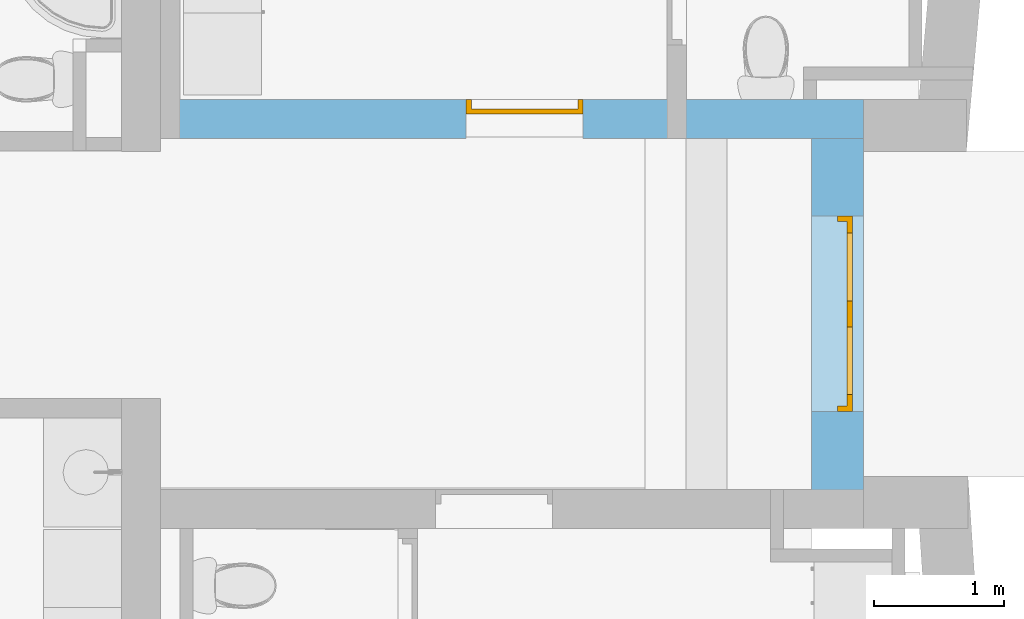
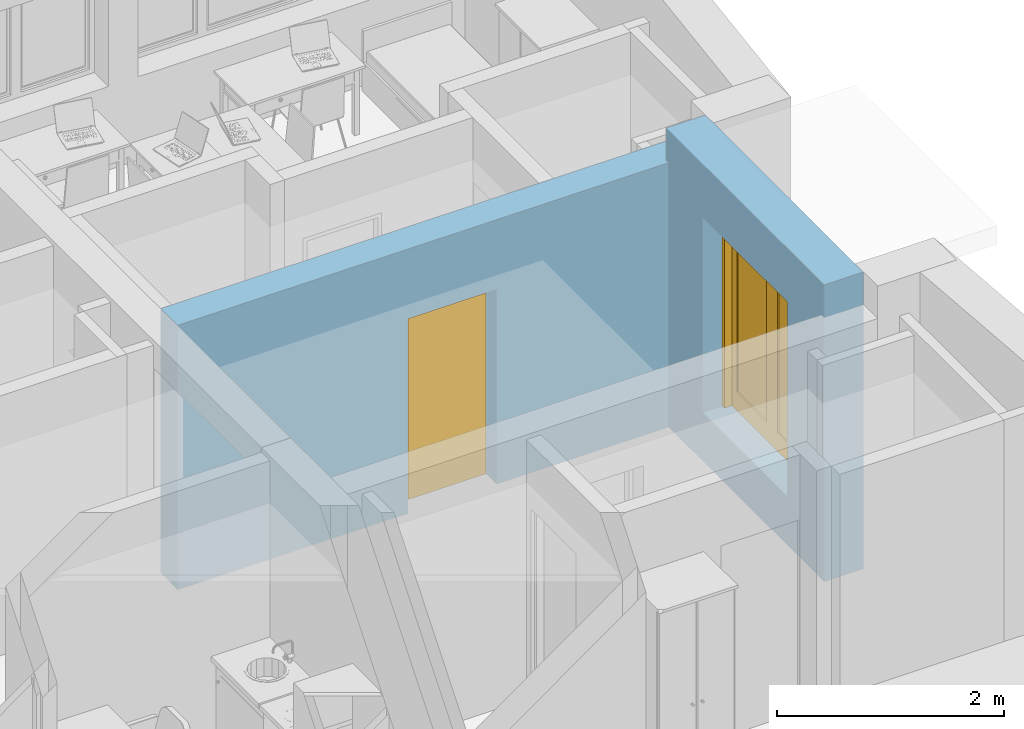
# One storey, part 25 of 165: 2 doors, 2 openings, plus 2 elements that do not belong to this part.
"""IFC2X3 building model written with IfcOpenShell, lengths in millimetres."""

import ifcopenshell
import ifcopenshell.guid

model = None  # the IFC model being written
_history = None  # IfcOwnerHistory: only IFC2X3 demands one
_inside = {}  # id of a spatial element -> (the spatial element, [elements in it])
_under = {}  # id of a project, library or spatial element -> (it, [spatial elements below it])
_declared = {}  # id of a project -> (the project, [libraries it declares])
_typed = {}  # id of a type object -> (the type object, [elements of that type])
_made_of = {}  # id of a material, layer set ... -> (it, [elements and type objects made of it])


def new_model(schema):
    """Start an empty IFC model of exactly this schema.

    Asked for "IFC4X3", IfcOpenShell would pick the latest addendum, in which some entities
    have other attributes; the version numbers below select the first issue.
    IFC2X3 requires an IfcOwnerHistory on every rooted entity: one is made here for all.
    """
    global model, _history
    if schema == "IFC4X3":
        model = ifcopenshell.file(schema_version=(4, 3, 0, 0))
    else:
        model = ifcopenshell.file(schema=schema)
    _inside.clear()
    _under.clear()
    _declared.clear()
    _typed.clear()
    _made_of.clear()
    _history = None
    if model.schema == "IFC2X3":
        org = make("IfcOrganization", Name="unknown")
        user = make(
            "IfcPersonAndOrganization",
            ThePerson=make("IfcPerson", FamilyName="unknown"),
            TheOrganization=org,
        )
        app = make(
            "IfcApplication",
            ApplicationDeveloper=org,
            Version="unknown",
            ApplicationFullName="unknown",
            ApplicationIdentifier="unknown",
        )
        _history = make(
            "IfcOwnerHistory",
            OwningUser=user,
            OwningApplication=app,
            ChangeAction="ADDED",
            CreationDate=0,
        )
    return model


def make(cls, **values):
    """One entity of the class cls with the attributes given. An attribute that is None is left unset."""
    return model.create_entity(
        cls, **{name: value for name, value in values.items() if value is not None}
    )


def entity(cls, *values):
    """Any entity or typed value of the class cls, its attributes in the order of the schema. None: left unset."""
    e = model.create_entity(cls)
    for i, value in enumerate(values):
        if value is not None:
            e[i] = value
    return e


def rooted(cls, **values):
    """An entity with a GlobalId (a new one), such as an element, a storey or a relation."""
    return make(cls, GlobalId=ifcopenshell.guid.new(), OwnerHistory=_history, **values)


def si_unit(unit_type, name, prefix=None):
    """IfcSIUnit, for example si_unit("LENGTHUNIT", "METRE", prefix="MILLI")."""
    return make("IfcSIUnit", UnitType=unit_type, Prefix=prefix, Name=name)


def converted_unit(unit_type, name, factor, base, dimensions=None, offset=None):
    """IfcConversionBasedUnit, such as the inch: factor (a typed value) times the base unit."""
    return make(
        "IfcConversionBasedUnit"
        if offset is None
        else "IfcConversionBasedUnitWithOffset",
        ConversionOffset=offset,
        Dimensions=None
        if dimensions is None
        else entity("IfcDimensionalExponents", *dimensions),
        UnitType=unit_type,
        Name=name,
        ConversionFactor=make(
            "IfcMeasureWithUnit", ValueComponent=factor, UnitComponent=base
        ),
    )


def money_unit(currency):
    """IfcMonetaryUnit."""
    return make("IfcMonetaryUnit", Currency=currency)


def assignment(units):
    """IfcUnitAssignment: the units of a project."""
    return None if units is None else make("IfcUnitAssignment", Units=units)


def point(xyz):
    """IfcCartesianPoint."""
    return None if xyz is None else make("IfcCartesianPoint", Coordinates=xyz)


def direction(xyz):
    """IfcDirection."""
    return None if xyz is None else make("IfcDirection", DirectionRatios=xyz)


def frame(location, z_axis=None, x_axis=None):
    """IfcAxis2Placement3D, a coordinate frame: its origin and axes. An axis left out is left unset."""
    return make(
        "IfcAxis2Placement3D",
        Location=point(location),
        Axis=direction(z_axis),
        RefDirection=direction(x_axis),
    )


def origin_with_axes():
    """The frame at (0, 0, 0) with the z axis (0, 0, 1) and the x axis (1, 0, 0) written out."""
    return frame((0.0, 0.0, 0.0), z_axis=(0.0, 0.0, 1.0), x_axis=(1.0, 0.0, 0.0))


def place(relative_to, where):
    """IfcLocalPlacement: puts the frame where relative to a parent placement (None: the world)."""
    return make(
        "IfcLocalPlacement", PlacementRelTo=relative_to, RelativePlacement=where
    )


def context(
    kind, dimensions, precision=None, world=None, true_north=None, identifier=None
):
    """IfcGeometricRepresentationContext, for example the 3D "Model" context."""
    return make(
        "IfcGeometricRepresentationContext",
        ContextIdentifier=identifier,
        ContextType=kind,
        CoordinateSpaceDimension=dimensions,
        Precision=precision,
        WorldCoordinateSystem=world,
        TrueNorth=true_north,
    )


def subcontext(parent, identifier, kind, view, scale=None):
    """IfcGeometricRepresentationSubContext, for example "Body" below "Model"."""
    return make(
        "IfcGeometricRepresentationSubContext",
        ContextIdentifier=identifier,
        ContextType=kind,
        ParentContext=parent,
        TargetScale=scale,
        TargetView=view,
    )


def project(units=None, contexts=None):
    """IfcProject with its units and contexts."""
    return rooted(
        "IfcProject",
        Name="project",
        RepresentationContexts=contexts,
        UnitsInContext=assignment(units),
    )


def spatial(cls, under=None, at=None, **own):
    """A site, building, storey or space (cls), placed at a placement, below another one or the project."""
    s = rooted(cls, ObjectPlacement=at, **own)
    if under is not None:
        _under.setdefault(under.id(), (under, []))[1].append(s)
    return s


def polyline(points):
    """IfcPolyline through the points."""
    return make("IfcPolyline", Points=[point(p) for p in points])


def outline(outer, holes=None, kind="AREA"):
    """IfcArbitraryClosedProfileDef: a profile drawn as a closed curve; with holes, ...WithVoids."""
    if holes is None:
        return make("IfcArbitraryClosedProfileDef", ProfileType=kind, OuterCurve=outer)
    return make(
        "IfcArbitraryProfileDefWithVoids",
        ProfileType=kind,
        OuterCurve=outer,
        InnerCurves=holes,
    )


def extrude(swept, where, along, depth):
    """IfcExtrudedAreaSolid: the profile swept, set in the frame where, extruded along a direction by depth."""
    return make(
        "IfcExtrudedAreaSolid",
        SweptArea=swept,
        Position=where,
        ExtrudedDirection=direction(along),
        Depth=depth,
    )


def faces_of(points, faces, orient=None, outer=None):
    """IfcFace entities. A face is a list of loops; a loop is a list of indices into points, from 0.

    orient and outer hold one flag for each loop. By default every Orientation is true, the
    first loop of a face is its IfcFaceOuterBound and the others are IfcFaceBound.
    """
    made = []
    for i, loops in enumerate(faces):
        bounds = []
        for j, loop in enumerate(loops):
            is_outer = j == 0 if outer is None else outer[i][j]
            bounds.append(
                make(
                    "IfcFaceOuterBound" if is_outer else "IfcFaceBound",
                    Bound=make("IfcPolyLoop", Polygon=[points[k] for k in loop]),
                    Orientation=True if orient is None else orient[i][j],
                )
            )
        made.append(make("IfcFace", Bounds=bounds))
    return made


def open_shell(faces, orient=None, outer=None):
    """The faces of one IfcOpenShell. surface_model builds it on its shared points."""
    return ("IfcOpenShell", faces, orient, outer)


def faceted_brep(points, faces, orient=None, outer=None, voids=None):
    """IfcFacetedBrep: a solid bounded by flat faces; with voids (closed shells), ...WithVoids."""
    shared = [point(p) for p in points]
    hull = make("IfcClosedShell", CfsFaces=faces_of(shared, faces, orient, outer))
    if voids is None:
        return make("IfcFacetedBrep", Outer=hull)
    return make(
        "IfcFacetedBrepWithVoids",
        Outer=hull,
        Voids=[
            make(cls, CfsFaces=faces_of(shared, fs, o, b)) for cls, fs, o, b in voids
        ],
    )


def surface_model(cls, points, shells):
    """IfcFaceBasedSurfaceModel or IfcShellBasedSurfaceModel (cls): surfaces that need not close."""
    shared = [point(p) for p in points]
    made = [make(c, CfsFaces=faces_of(shared, fs, o, b)) for c, fs, o, b in shells]
    if cls == "IfcFaceBasedSurfaceModel":
        return make(cls, FbsmFaces=made)
    return make(cls, SbsmBoundary=made)


def shape(context_of_items, identifier, shape_type, items):
    """IfcShapeRepresentation: the items that make up one representation, for example the "Body"."""
    return make(
        "IfcShapeRepresentation",
        ContextOfItems=context_of_items,
        RepresentationIdentifier=identifier,
        RepresentationType=shape_type,
        Items=items,
    )


def material(Name=None, Category=None):
    """IfcMaterial."""
    return make("IfcMaterial", Name=Name, Category=Category)


def material_list(materials):
    """IfcMaterialList."""
    return make("IfcMaterialList", Materials=materials)


def layer(
    of_material, thickness, ventilated=None, Name=None, Category=None, Priority=None
):
    """IfcMaterialLayer: one layer of a wall or slab, of a material (None: an air gap)."""
    return make(
        "IfcMaterialLayer",
        Material=of_material,
        LayerThickness=thickness,
        IsVentilated=ventilated,
        Name=Name,
        Category=Category,
        Priority=Priority,
    )


def layer_set(layers, Name=None):
    """IfcMaterialLayerSet."""
    return make("IfcMaterialLayerSet", MaterialLayers=layers, LayerSetName=Name)


def layer_usage(for_layer_set, set_direction, sense, offset, extent=None):
    """IfcMaterialLayerSetUsage: how a layer set lies in its element."""
    return make(
        "IfcMaterialLayerSetUsage",
        ForLayerSet=for_layer_set,
        LayerSetDirection=set_direction,
        DirectionSense=sense,
        OffsetFromReferenceLine=offset,
        ReferenceExtent=extent,
    )


def made_of(thing, what):
    """Note that an element or type object is made of a material, layer set ...; save() writes the relation."""
    if what is not None:
        _made_of.setdefault(what.id(), (what, []))[1].append(thing)
    return thing


def type_object(cls, material=None, **own):
    """A type object (cls), such as IfcWallType, which elements share."""
    return made_of(rooted(cls, **own), material)


def element(
    cls,
    number,
    at=None,
    inside=None,
    cuts=None,
    type_object=None,
    material=None,
    context=None,
    identifier="Body",
    shape_type=None,
    held_by="IfcProductDefinitionShape",
    body=None,
    shapes=None,
    **own,
):
    """One element of the class cls, such as IfcWall. Its Tag is "e" and its number.

    at: its placement. inside: the storey or other place that contains it. cuts: it is an
    opening in that element (IfcRelVoidsElement). A single representation is given by context,
    identifier, shape_type and body (its items); several are given by shapes. held_by: the class
    of the entity that holds the representations. save() writes the other relations.
    """
    e = rooted(cls, Tag="e%d" % number, ObjectPlacement=at, **own)
    if body is not None:
        shapes = [shape(context, identifier, shape_type, body)]
    if shapes is not None:
        e.Representation = make(held_by, Representations=shapes)
    if inside is not None:
        _inside.setdefault(inside.id(), (inside, []))[1].append(e)
    if cuts is not None:
        rooted(
            "IfcRelVoidsElement", RelatingBuildingElement=cuts, RelatedOpeningElement=e
        )
    if type_object is not None:
        _typed.setdefault(type_object.id(), (type_object, []))[1].append(e)
    return made_of(e, material)


def fill(opening, filler):
    """IfcRelFillsElement: the door or window that sits in an opening."""
    return rooted(
        "IfcRelFillsElement",
        RelatingOpeningElement=opening,
        RelatedBuildingElement=filler,
    )


def aggregate(whole, parts):
    """IfcRelAggregates: a whole, such as a stair, and the parts it consists of."""
    return rooted("IfcRelAggregates", RelatingObject=whole, RelatedObjects=parts)


def save(model, path):
    """Write the relations noted so far, then the file.

    IfcRelAggregates (storeys below a building ...), IfcRelContainedInSpatialStructure (elements
    in a storey), IfcRelDefinesByType, IfcRelAssociatesMaterial and IfcRelDeclares: one each for
    every whole, place, type object, material and project.
    """
    for whole, parts in _under.values():
        aggregate(whole, parts)
    for where, things in _inside.values():
        rooted(
            "IfcRelContainedInSpatialStructure",
            RelatedElements=things,
            RelatingStructure=where,
        )
    for kind, things in _typed.values():
        rooted("IfcRelDefinesByType", RelatedObjects=things, RelatingType=kind)
    for what, things in _made_of.values():
        rooted("IfcRelAssociatesMaterial", RelatedObjects=things, RelatingMaterial=what)
    for by, libraries in _declared.values():
        rooted("IfcRelDeclares", RelatingContext=by, RelatedDefinitions=libraries)
    model.write(path)


model = new_model("IFC2X3")

# Units and contexts
model_context = context("Model", 3, precision=1e-05, world=origin_with_axes(), true_north=direction((0.0, 1.0)))
body_context = subcontext(model_context, "Body", "Model", "MODEL_VIEW")
ifc_project = project(units=[si_unit("LENGTHUNIT", "METRE", prefix="MILLI"), si_unit("AREAUNIT", "SQUARE_METRE"), si_unit("VOLUMEUNIT", "CUBIC_METRE"), converted_unit("PLANEANGLEUNIT", "DEGREE", entity("IfcPlaneAngleMeasure", 0.0174532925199), si_unit("PLANEANGLEUNIT", "RADIAN"), dimensions=[0, 0, 0, 0, 0, 0, 0]), si_unit("SOLIDANGLEUNIT", "STERADIAN"), money_unit("USD"), converted_unit("TIMEUNIT", "Year", entity("IfcTimeMeasure", 31556926.0), si_unit("TIMEUNIT", "SECOND"), dimensions=[0, 0, 0, 0, 0, 0, 0]), si_unit("MASSUNIT", "GRAM"), si_unit("THERMODYNAMICTEMPERATUREUNIT", "DEGREE_CELSIUS"), si_unit("LUMINOUSINTENSITYUNIT", "LUMEN")], contexts=[model_context])

# Site, building, storey
site_placement = place(None, origin_with_axes())
site = spatial("IfcSite", under=ifc_project, at=site_placement, Name="Site", CompositionType="ELEMENT")
building_placement = place(site_placement, origin_with_axes())
building = spatial("IfcBuilding", under=site, at=building_placement, Name="Building", CompositionType="ELEMENT")
storey_placement = place(building_placement, frame((0.0, 0.0, 6300.0), z_axis=(0.0, 0.0, 1.0), x_axis=(1.0, 0.0, 0.0)))
storey = spatial("IfcBuildingStorey", under=building, at=storey_placement, Name="4KORRUS", CompositionType="ELEMENT", Elevation=6300.0)

# Wall, opening, door
ifc_material_1 = material(Name="Olemasolevad seinad tellis, uus viimistlus")
ifc_layer_1 = layer(ifc_material_1, 400.0, ventilated="UNKNOWN")
ifc_layer_set_1 = layer_set([ifc_layer_1], Name="Olemasolevad seinad tellis, uus viimistlus 400")
ifc_layer_usage_1 = layer_usage(ifc_layer_set_1, "AXIS2", "POSITIVE", 0.0)
wall_type_1 = type_object("IfcWallType", Name="Olemasolevad seinad tellis, uus viimistlus 400", PredefinedType="NOTDEFINED")
wall_1_placement = place(storey_placement, frame((17015.1799697, -10997.6526712, 0.0), z_axis=(0.0, 0.0, 1.0), x_axis=(0.0, -1.0, 0.0)))
wall_1 = element("IfcWallStandardCase", 1, at=wall_1_placement, inside=storey, type_object=wall_type_1, material=ifc_layer_usage_1, Name="VS1", ObjectType="VS1", context=body_context, shape_type="SweptSolid", body=[
    extrude(outline(polyline([(0.0, 0.0), (2789.68489615, 0.0), (2789.68489615, 400.0), (0.0, 400.0), (0.0, 0.0)])), origin_with_axes(), (0.0, 0.0, 1.0), 3200.0),
])
opening_1_placement = place(wall_1_placement, frame((1391.58722821, 0.0, 524.754102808), z_axis=(0.0, 0.0, 1.0), x_axis=(1.0, 0.0, 0.0)))
opening_1 = element("IfcOpeningElement", 2, at=opening_1_placement, cuts=wall_1, Name="A4", context=body_context, shape_type="SweptSolid", body=[
    extrude(outline(polyline([(-750.0, 2100.0), (-750.0, 0.0), (750.0, 0.0), (750.0, 2100.0), (-750.0, 2100.0)])), frame((0.0, 200.0, 0.0), z_axis=(0.0, -1.0, 0.0), x_axis=(1.0, 0.0, 0.0)), (0.0, 0.0, 1.0), 600.0),
    extrude(outline(polyline([(-750.0, 0.0), (-750.0, -2100.0), (750.0, -2100.0), (750.0, 0.0), (-750.0, 0.0)])), frame((0.0, 200.0, 0.0), z_axis=(0.0, 1.0, 0.0), x_axis=(1.0, 0.0, 0.0)), (0.0, 0.0, 1.0), 600.0),
])
ifc_material_2 = material(Name="Background")
ifc_material_list = material_list([ifc_material_2])
door_style_1 = type_object("IfcDoorStyle", Name="Double Door 19", ConstructionType="NOTDEFINED", OperationType="DOUBLE_DOOR_SINGLE_SWING", ParameterTakesPrecedence=False, Sizeable=False)
door_1_placement = place(opening_1_placement, frame((-750.0, 0.0, 0.0), z_axis=(0.0, 0.0, 1.0), x_axis=(1.0, 0.0, 0.0)))
door_1 = element("IfcDoor", 3, at=door_1_placement, inside=storey, type_object=door_style_1, material=ifc_material_list, Name="A4", ObjectType="A4", OverallHeight=2100.0, OverallWidth=1500.0, context=body_context, shape_type="SurfaceModel", body=[
    faceted_brep([(40.0, 275.0, 0.0), (40.0, 275.0, 2060.0), (40.0, 200.0, 2060.0), (40.0, 200.0, 0.0), (28.0, 275.0, 2060.0), (28.0, 275.0, 0.0), (28.0, 315.0, 2060.0), (0.0, 315.0, 2060.0), (0.0, 200.0, 2060.0), (0.0, 200.0, 0.0), (0.0, 315.0, 0.0), (28.0, 315.0, 0.0)], [[[0, 1, 2, 3]], [[4, 1, 0, 5]], [[4, 6, 7, 8, 2, 1]], [[2, 8, 9, 3]], [[5, 0, 3, 9, 10, 11]], [[6, 4, 5, 11]], [[6, 11, 10, 7]], [[9, 8, 7, 10]]]),
    faceted_brep([(1472.0, 275.0, 2060.0), (1460.0, 275.0, 2060.0), (1460.0, 200.0, 2060.0), (1500.0, 200.0, 2060.0), (1500.0, 315.0, 2060.0), (1472.0, 315.0, 2060.0), (1472.0, 275.0, 0.0), (1460.0, 275.0, 0.0), (1460.0, 200.0, 0.0), (1500.0, 200.0, 0.0), (1500.0, 315.0, 0.0), (1472.0, 315.0, 0.0)], [[[0, 1, 2, 3, 4, 5]], [[1, 0, 6, 7]], [[1, 7, 8, 2]], [[2, 8, 9, 3]], [[3, 9, 10, 4]], [[11, 5, 4, 10]], [[0, 5, 11, 6]], [[6, 11, 10, 9, 8, 7]]]),
    faceted_brep([(28.0, 315.0, 2072.0), (28.0, 315.0, 2060.0), (0.0, 315.0, 2060.0), (0.0, 315.0, 2100.0), (1500.0, 315.0, 2100.0), (1500.0, 315.0, 2060.0), (1472.0, 315.0, 2060.0), (1472.0, 315.0, 2072.0), (28.0, 275.0, 2072.0), (28.0, 275.0, 2060.0), (40.0, 275.0, 2060.0), (40.0, 200.0, 2060.0), (0.0, 200.0, 2060.0), (0.0, 200.0, 2100.0), (1500.0, 200.0, 2100.0), (1500.0, 200.0, 2060.0), (1472.0, 275.0, 2060.0), (1460.0, 200.0, 2060.0), (1460.0, 275.0, 2060.0), (1472.0, 275.0, 2072.0)], [[[0, 1, 2, 3, 4, 5, 6, 7]], [[1, 0, 8, 9]], [[9, 10, 11, 12, 2, 1]], [[12, 13, 3, 2]], [[13, 14, 4, 3]], [[14, 15, 5, 4]], [[16, 6, 5, 15, 17, 18]], [[7, 6, 16, 19]], [[0, 7, 19, 8]], [[16, 18, 10, 9, 8, 19]], [[10, 18, 17, 11]], [[15, 14, 13, 12, 11, 17]]]),
    faceted_brep([(1472.0, 315.0, 200.0), (1472.0, 275.0, 200.0), (1372.0, 275.0, 200.0), (1372.0, 315.0, 200.0), (1472.0, 315.0, 1972.0), (1472.0, 275.0, 1972.0), (1372.0, 275.0, 1972.0), (1372.0, 315.0, 1972.0)], [[[0, 1, 2, 3]], [[4, 5, 1, 0]], [[1, 5, 6, 2]], [[3, 2, 6, 7]], [[0, 3, 7, 4]], [[7, 6, 5, 4]]]),
    faceted_brep([(750.0, 315.0, 200.0), (750.0, 275.0, 200.0), (750.0, 275.0, 1972.0), (750.0, 315.0, 1972.0), (850.0, 315.0, 200.0), (850.0, 275.0, 200.0), (850.0, 275.0, 1972.0), (850.0, 315.0, 1972.0)], [[[0, 1, 2, 3]], [[4, 5, 1, 0]], [[1, 5, 6, 2]], [[3, 2, 6, 7]], [[0, 3, 7, 4]], [[7, 6, 5, 4]]]),
    faceted_brep([(1472.0, 315.0, 0.0), (1472.0, 275.0, 0.0), (750.0, 275.0, 0.0), (750.0, 315.0, 0.0), (1472.0, 315.0, 200.0), (1472.0, 275.0, 200.0), (1372.0, 275.0, 200.0), (850.0, 275.0, 200.0), (750.0, 275.0, 200.0), (750.0, 315.0, 200.0), (850.0, 315.0, 200.0), (1372.0, 315.0, 200.0)], [[[0, 1, 2, 3]], [[4, 5, 1, 0]], [[1, 5, 6, 7, 8, 2]], [[3, 2, 8, 9]], [[0, 3, 9, 10, 11, 4]], [[11, 6, 5, 4]], [[10, 7, 6, 11]], [[9, 8, 7, 10]]]),
    faceted_brep([(1472.0, 315.0, 2072.0), (1472.0, 275.0, 2072.0), (1472.0, 275.0, 1972.0), (1472.0, 315.0, 1972.0), (750.0, 315.0, 2072.0), (750.0, 275.0, 2072.0), (750.0, 275.0, 1972.0), (850.0, 275.0, 1972.0), (1372.0, 275.0, 1972.0), (1372.0, 315.0, 1972.0), (850.0, 315.0, 1972.0), (750.0, 315.0, 1972.0)], [[[0, 1, 2, 3]], [[4, 5, 1, 0]], [[1, 5, 6, 7, 8, 2]], [[3, 2, 8, 9]], [[0, 3, 9, 10, 11, 4]], [[11, 6, 5, 4]], [[10, 7, 6, 11]], [[9, 8, 7, 10]]]),
    surface_model("IfcShellBasedSurfaceModel", [(1372.0, 301.0, 200.0), (850.0, 301.0, 200.0), (850.0, 301.0, 1972.0), (1372.0, 301.0, 1972.0)], [open_shell([[[0, 1, 2, 3]]])]),
    surface_model("IfcShellBasedSurfaceModel", [(1372.0, 289.0, 200.0), (1372.0, 289.0, 1972.0), (850.0, 289.0, 1972.0), (850.0, 289.0, 200.0)], [open_shell([[[0, 1, 2, 3]]])]),
    faceted_brep([(28.0, 315.0, 200.0), (128.0, 315.0, 200.0), (128.0, 275.0, 200.0), (28.0, 275.0, 200.0), (28.0, 315.0, 1972.0), (128.0, 315.0, 1972.0), (128.0, 275.0, 1972.0), (28.0, 275.0, 1972.0)], [[[0, 1, 2, 3]], [[0, 4, 5, 1]], [[1, 5, 6, 2]], [[3, 2, 6, 7]], [[4, 0, 3, 7]], [[5, 4, 7, 6]]]),
    faceted_brep([(750.0, 315.0, 200.0), (750.0, 315.0, 1972.0), (750.0, 275.0, 1972.0), (750.0, 275.0, 200.0), (650.0, 315.0, 200.0), (650.0, 315.0, 1972.0), (650.0, 275.0, 1972.0), (650.0, 275.0, 200.0)], [[[0, 1, 2, 3]], [[0, 4, 5, 1]], [[1, 5, 6, 2]], [[3, 2, 6, 7]], [[4, 0, 3, 7]], [[5, 4, 7, 6]]]),
    faceted_brep([(28.0, 315.0, 0.0), (750.0, 315.0, 0.0), (750.0, 275.0, 0.0), (28.0, 275.0, 0.0), (28.0, 315.0, 200.0), (128.0, 315.0, 200.0), (650.0, 315.0, 200.0), (750.0, 315.0, 200.0), (750.0, 275.0, 200.0), (650.0, 275.0, 200.0), (128.0, 275.0, 200.0), (28.0, 275.0, 200.0)], [[[0, 1, 2, 3]], [[0, 4, 5, 6, 7, 1]], [[1, 7, 8, 2]], [[3, 2, 8, 9, 10, 11]], [[4, 0, 3, 11]], [[5, 4, 11, 10]], [[6, 5, 10, 9]], [[7, 6, 9, 8]]]),
    faceted_brep([(28.0, 315.0, 2072.0), (28.0, 315.0, 1972.0), (28.0, 275.0, 1972.0), (28.0, 275.0, 2072.0), (750.0, 315.0, 2072.0), (750.0, 315.0, 1972.0), (650.0, 315.0, 1972.0), (128.0, 315.0, 1972.0), (128.0, 275.0, 1972.0), (650.0, 275.0, 1972.0), (750.0, 275.0, 1972.0), (750.0, 275.0, 2072.0)], [[[0, 1, 2, 3]], [[0, 4, 5, 6, 7, 1]], [[1, 7, 8, 2]], [[3, 2, 8, 9, 10, 11]], [[4, 0, 3, 11]], [[5, 4, 11, 10]], [[6, 5, 10, 9]], [[7, 6, 9, 8]]]),
    surface_model("IfcShellBasedSurfaceModel", [(128.0, 301.0, 200.0), (128.0, 301.0, 1972.0), (650.0, 301.0, 1972.0), (650.0, 301.0, 200.0)], [open_shell([[[0, 1, 2, 3]]])]),
    surface_model("IfcShellBasedSurfaceModel", [(128.0, 289.0, 200.0), (650.0, 289.0, 200.0), (650.0, 289.0, 1972.0), (128.0, 289.0, 1972.0)], [open_shell([[[0, 1, 2, 3]]])]),
])
fill(opening_1, door_1)

ifc_material_3 = material(Name="Olemasolevad seinad tellis, uus viimistlus")
ifc_layer_2 = layer(ifc_material_3, 300.0, ventilated="UNKNOWN")
ifc_layer_set_2 = layer_set([ifc_layer_2], Name="Olemasolevad seinad tellis, uus viimistlus  300")
ifc_layer_usage_2 = layer_usage(ifc_layer_set_2, "AXIS2", "POSITIVE", -300.0)
wall_type_2 = type_object("IfcWallType", Name="Olemasolevad seinad tellis, uus viimistlus  300", PredefinedType="NOTDEFINED")
wall_2_placement = place(storey_placement, frame((17415.1799697, -11039.6041088, 0.0), z_axis=(0.0, 0.0, 1.0), x_axis=(-1.0, 0.0, 0.0)))
wall_2 = element("IfcWallStandardCase", 4, at=wall_2_placement, inside=storey, type_object=wall_type_2, material=ifc_layer_usage_2, Name="KS1", ObjectType="KS1", context=body_context, shape_type="SweptSolid", body=[
    extrude(outline(polyline([(0.0, -300.0), (5405.47667304, -300.0), (5405.47667304, 0.0), (0.0, 0.0), (0.0, -300.0)])), origin_with_axes(), (0.0, 0.0, 1.0), 2850.0),
])
opening_2_placement = place(wall_2_placement, frame((2605.79848612, 0.0, 0.0), z_axis=(0.0, 0.0, 1.0), x_axis=(1.0, 0.0, 0.0)))
opening_2 = element("IfcOpeningElement", 5, at=opening_2_placement, cuts=wall_2, Name="SU2-6", context=body_context, shape_type="SweptSolid", body=[
    extrude(outline(polyline([(-450.0, 0.0), (450.0, 0.0), (450.0, 2100.0), (-450.0, 2100.0), (-450.0, 0.0)])), frame((0.0, 300.0, 0.0), z_axis=(0.0, 1.0, 0.0), x_axis=(-1.0, 0.0, 0.0)), (0.0, 0.0, -1.0), 900.0),
])
door_style_2 = type_object("IfcDoorStyle", Name="Door 19", ConstructionType="NOTDEFINED", OperationType="SINGLE_SWING_LEFT", ParameterTakesPrecedence=False, Sizeable=False)
door_2_placement = place(opening_2_placement, frame((-450.0, 0.0, 0.0), z_axis=(0.0, 0.0, 1.0), x_axis=(1.0, 0.0, 0.0)))
door_2 = element("IfcDoor", 6, at=door_2_placement, inside=storey, type_object=door_style_2, material=ifc_material_list, Name="SU2-6", ObjectType="Korteri välisuks", OverallHeight=2100.0, OverallWidth=900.0, context=body_context, shape_type="Brep", body=[
    faceted_brep([(860.0, -225.0, 0.0), (860.0, -300.0, 0.0), (860.0, -300.0, 2060.0), (860.0, -225.0, 2060.0), (872.0, -225.0, 0.0), (872.0, -185.0, 0.0), (900.0, -185.0, 0.0), (900.0, -300.0, 0.0), (900.0, -300.0, 2060.0), (872.0, -225.0, 2060.0), (900.0, -185.0, 2060.0), (872.0, -185.0, 2060.0)], [[[0, 1, 2, 3]], [[4, 5, 6, 7, 1, 0]], [[2, 1, 7, 8]], [[9, 3, 2, 8, 10, 11]], [[9, 4, 0, 3]], [[11, 5, 4, 9]], [[11, 10, 6, 5]], [[7, 6, 10, 8]]]),
    faceted_brep([(28.0, -225.0, 2060.0), (28.0, -185.0, 2060.0), (0.0, -185.0, 2060.0), (0.0, -300.0, 2060.0), (40.0, -300.0, 2060.0), (40.0, -225.0, 2060.0), (28.0, -225.0, 0.0), (28.0, -185.0, 0.0), (0.0, -185.0, 0.0), (0.0, -300.0, 0.0), (40.0, -300.0, 0.0), (40.0, -225.0, 0.0)], [[[0, 1, 2, 3, 4, 5]], [[0, 6, 7, 1]], [[7, 8, 2, 1]], [[3, 2, 8, 9]], [[4, 3, 9, 10]], [[5, 4, 10, 11]], [[5, 11, 6, 0]], [[6, 11, 10, 9, 8, 7]]]),
    faceted_brep([(872.0, -185.0, 2072.0), (28.0, -185.0, 2072.0), (28.0, -185.0, 2060.0), (0.0, -185.0, 2060.0), (0.0, -185.0, 2100.0), (900.0, -185.0, 2100.0), (900.0, -185.0, 2060.0), (872.0, -185.0, 2060.0), (872.0, -225.0, 2072.0), (28.0, -225.0, 2072.0), (28.0, -225.0, 2060.0), (40.0, -225.0, 2060.0), (40.0, -300.0, 2060.0), (0.0, -300.0, 2060.0), (0.0, -300.0, 2100.0), (900.0, -300.0, 2100.0), (900.0, -300.0, 2060.0), (872.0, -225.0, 2060.0), (860.0, -300.0, 2060.0), (860.0, -225.0, 2060.0)], [[[0, 1, 2, 3, 4, 5, 6, 7]], [[0, 8, 9, 1]], [[1, 9, 10, 2]], [[10, 11, 12, 13, 3, 2]], [[14, 4, 3, 13]], [[15, 5, 4, 14]], [[16, 6, 5, 15]], [[17, 7, 6, 16, 18, 19]], [[7, 17, 8, 0]], [[10, 9, 8, 17, 19, 11]], [[19, 18, 12, 11]], [[13, 12, 18, 16, 15, 14]]]),
    faceted_brep([(28.0, -185.0, 0.0), (872.0, -185.0, 0.0), (872.0, -225.0, 0.0), (28.0, -225.0, 0.0), (28.0, -185.0, 2072.0), (872.0, -185.0, 2072.0), (872.0, -225.0, 2072.0), (28.0, -225.0, 2072.0)], [[[0, 1, 2, 3]], [[0, 4, 5, 1]], [[1, 5, 6, 2]], [[3, 2, 6, 7]], [[4, 0, 3, 7]], [[5, 4, 7, 6]]]),
])
fill(opening_2, door_2)

save(model, "model.ifc")
